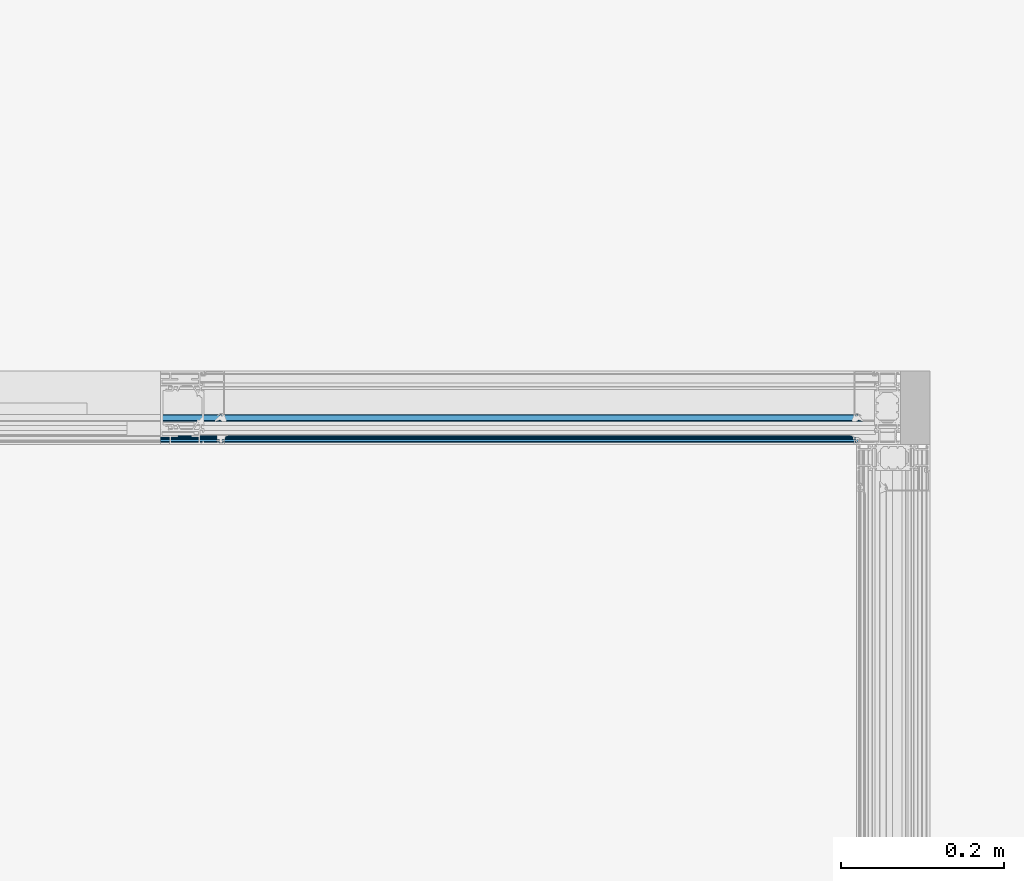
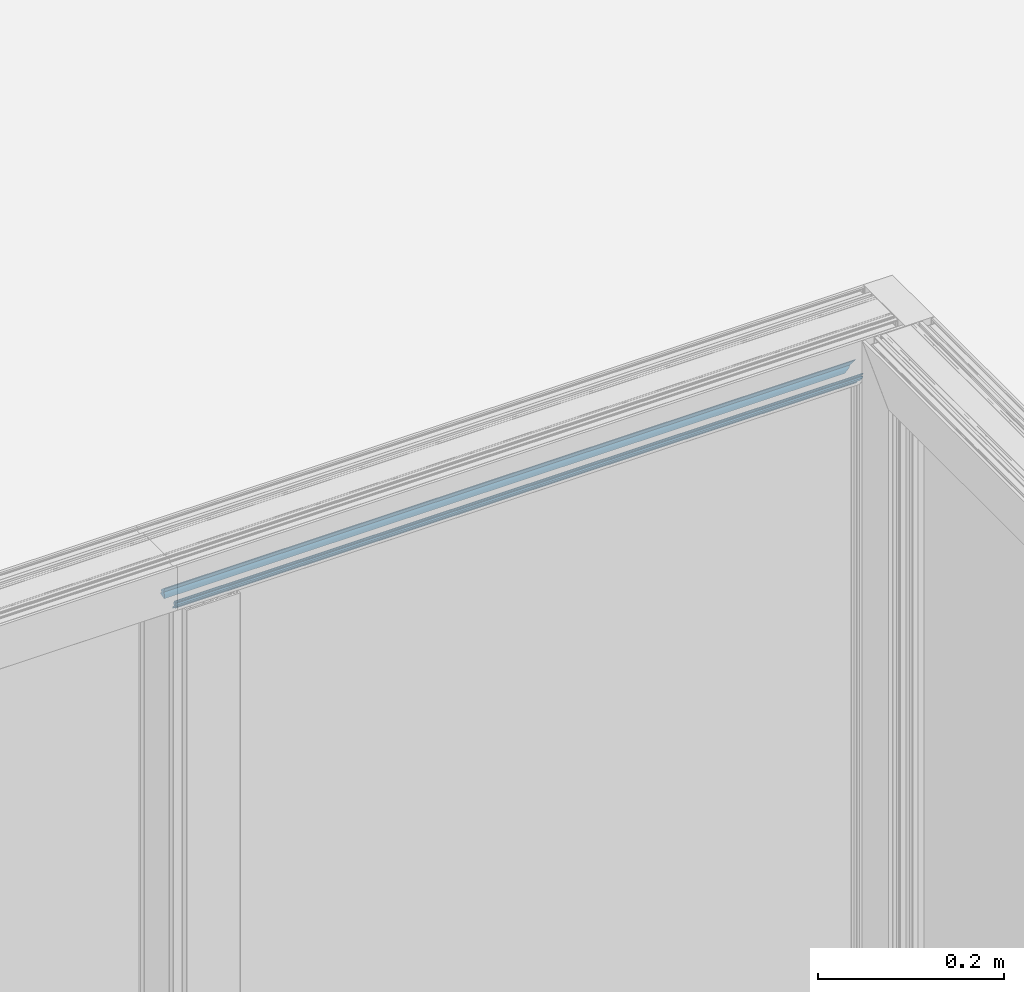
# One storey, part 37 of 69: 1 building element part, 2 elements without a shape of their own.
"""IFC2X3 building model written with IfcOpenShell, lengths in millimetres."""

from ifc_helpers import new_model, entity, si_unit, converted_unit, derived_unit, money_unit, direction, frame, origin_with_axes, place, context, subcontext, project, spatial, faceted_brep, material, type_object, element, aggregate, save


model = new_model("IFC2X3")

# Units and contexts
model_context = context("Model", 3, precision=0.01, world=origin_with_axes(), true_north=direction((0.0, 1.0)))
body_context = subcontext(model_context, "Body", "Model", "MODEL_VIEW")
ifc_project = project(units=[si_unit("LENGTHUNIT", "METRE", prefix="MILLI"), si_unit("AREAUNIT", "SQUARE_METRE"), si_unit("VOLUMEUNIT", "CUBIC_METRE"), converted_unit("PLANEANGLEUNIT", "DEGREE", entity("IfcPlaneAngleMeasure", 0.0174532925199), si_unit("PLANEANGLEUNIT", "RADIAN"), dimensions=[0, 0, 0, 0, 0, 0, 0]), si_unit("SOLIDANGLEUNIT", "STERADIAN"), money_unit("EUR"), converted_unit("TIMEUNIT", "Year", entity("IfcTimeMeasure", 31556926.0), si_unit("TIMEUNIT", "SECOND"), dimensions=[0, 0, 1, 0, 0, 0, 0]), si_unit("MASSUNIT", "GRAM", prefix="KILO"), si_unit("THERMODYNAMICTEMPERATUREUNIT", "DEGREE_CELSIUS"), si_unit("LUMINOUSINTENSITYUNIT", "LUMEN"), si_unit("ENERGYUNIT", "JOULE", prefix="MEGA"), derived_unit("THERMALCONDUCTANCEUNIT", [(si_unit("POWERUNIT", "WATT"), 1), (si_unit("LENGTHUNIT", "METRE"), -1), (si_unit("THERMODYNAMICTEMPERATUREUNIT", "KELVIN"), -1)]), derived_unit("SPECIFICHEATCAPACITYUNIT", [(si_unit("ENERGYUNIT", "JOULE"), 1), (si_unit("MASSUNIT", "GRAM", prefix="KILO"), -1), (si_unit("THERMODYNAMICTEMPERATUREUNIT", "KELVIN"), -1)]), derived_unit("MASSDENSITYUNIT", [(si_unit("MASSUNIT", "GRAM", prefix="KILO"), 1), (si_unit("VOLUMEUNIT", "CUBIC_METRE"), -1)])], contexts=[model_context])

# Site, building, storey
site_placement = place(None, origin_with_axes())
site = spatial("IfcSite", under=ifc_project, at=site_placement, Name="Puškini 31, Narva", CompositionType="ELEMENT")
building_placement = place(site_placement, origin_with_axes())
building = spatial("IfcBuilding", under=site, at=building_placement, Name="Narva Riigigümnaasium", CompositionType="ELEMENT")
storey_placement = place(building_placement, origin_with_axes())
storey = spatial("IfcBuildingStorey", under=building, at=storey_placement, Name="1.korrus 0.00", CompositionType="ELEMENT", Elevation=0.0)

# Curtain wall, member, building element part
curtain_wall_type = type_object("IfcCurtainWallType", Name="Curtain Wall Type", PredefinedType="NOTDEFINED")
curtain_wall_placement = place(storey_placement, frame((18229.9603698, 152620.000001, -0.397158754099), z_axis=(0.0, 0.0, 1.0), x_axis=(1.0, 0.0, 0.0)))
curtain_wall = element("IfcCurtainWall", 1, at=curtain_wall_placement, inside=storey, type_object=curtain_wall_type, Name="G-KLF-01-1")
member_type = type_object("IfcMemberType", Name="61 x 45", PredefinedType="MULLION")
member_placement = place(curtain_wall_placement, frame((4064.40686752, 0.0, 3760.3971197), z_axis=(-1.0, 0.0, 0.0), x_axis=(0.0, 0.0, 1.0)))
member = element("IfcMember", 2, at=member_placement, type_object=member_type, Name="G-SKLF-01-raam", ObjectType="MULLION")
aggregate(curtain_wall, [member])
ifc_material = material(Name="Membraan - Veekindel")
building_element_part_placement = place(member_placement, origin_with_axes())
building_element_part = element("IfcBuildingElementPart", 3, at=building_element_part_placement, material=ifc_material, Name="Membraan - Veekindel", context=body_context, shape_type="Brep", body=[
    faceted_brep([(-59.5800222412, -34.73794757, 59.5800222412), (-59.5800222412, -34.73794757, 905.68356342), (-61.0413385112, -34.3890442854, 905.68356342), (-61.0413385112, -34.3890442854, 61.0413385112), (-58.4755028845, -35.3628499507, 58.4755028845), (-58.4755028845, -35.3628499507, 905.68356342), (-57.9693613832, -36.5265882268, 905.68356342), (-57.7000324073, -39.5999584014, 905.68356342), (-57.6464370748, -39.7999717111, 905.68356342), (-57.5000161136, -39.9463912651, 905.68356342), (-57.3000022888, -39.9999846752, 905.68356342), (-57.3000022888, -39.1999494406, 905.68356342), (-55.3000210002, -39.1999606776, 905.68356342), (-55.2330337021, -38.9499606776, 905.68356342), (-55.0500210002, -38.7669479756, 905.68356342), (-54.8000210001, -38.6999606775, 905.68356342), (-54.5500210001, -38.7669479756, 905.68356342), (-54.3670082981, -38.9499606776, 905.68356342), (-54.300021, -39.1999606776, 905.68356342), (-54.300021, -40.4999366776, 905.68356342), (-54.3402133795, -40.6499366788, 905.68356342), (-54.4500210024, -40.7597443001, 905.68356342), (-54.6000210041, -40.7999366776, 905.68356342), (-54.7000173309, -40.7999366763, 905.68356342), (-54.866675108, -40.850483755, 905.68356342), (-54.9771753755, -40.9850924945, 905.68356342), (-54.9942836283, -41.1584047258, 905.68356342), (-54.9122350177, -41.3120206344, 905.68356342), (-53.8716106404, -42.3533776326, 905.68356342), (-53.7093558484, -42.4618547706, 905.68356342), (-53.517932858, -42.4999486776, 905.68356342), (-51.8818844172, -42.4999486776, 905.68356342), (-51.6904310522, -42.4618421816, 905.68356342), (-51.5281601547, -42.3533311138, 905.68356342), (-50.4878083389, -41.3119729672, 905.68356342), (-50.4057850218, -41.1583618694, 905.68356342), (-50.4229059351, -40.9850671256, 905.68356342), (-50.5334025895, -40.8504763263, 905.68356342), (-50.7000457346, -40.7999366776, 905.68356342), (-50.80004, -40.7999366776, 905.68356342), (-50.95004, -40.7597442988, 905.68356342), (-51.0598476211, -40.6499366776, 905.68356342), (-51.10004, -40.4999366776, 905.68356342), (-51.10004, -39.1999550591, 905.68356342), (-51.0330541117, -38.9499546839, 905.68356342), (-50.8500424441, -38.7669409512, 905.68356342), (-50.6000428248, -38.699952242, 905.68356342), (-50.3500424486, -38.7669381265, 905.68356342), (-50.1670287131, -38.9499497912, 905.68356342), (-50.10004, -39.1999494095, 905.68356342), (-48.7206527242, -39.1999494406, 905.68356342), (-48.7206527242, -38.0023809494, 905.68356342), (-48.7876400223, -37.7523809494, 905.68356342), (-48.9706527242, -37.5693682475, 905.68356342), (-49.2206527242, -37.5023809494, 905.68356342), (-50.3319753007, -37.5023809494, 905.68356342), (-50.5819753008, -37.4353936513, 905.68356342), (-50.7649880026, -37.2523809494, 905.68356342), (-51.1691331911, -36.5523809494, 905.68356342), (-51.352145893, -36.3693682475, 905.68356342), (-51.602145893, -36.3023809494, 905.68356342), (-53.8391557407, -36.3023809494, 905.68356342), (-54.0891557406, -36.3693682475, 905.68356342), (-54.2721684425, -36.5523809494, 905.68356342), (-54.676313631, -37.2523809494, 905.68356342), (-54.8593263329, -37.4353936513, 905.68356342), (-55.1093263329, -37.5023809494, 905.68356342), (-55.7607444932, -37.5023809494, 905.68356342), (-55.9795989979, -37.4519392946, 905.68356342), (-56.1542959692, -37.3107917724, 905.68356342), (-56.2495873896, -37.1074172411, 905.68356342), (-56.9567944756, -35.6067920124, 905.68356342), (-58.2346494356, -34.5489145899, 905.68356342), (-59.8409257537, -34.1343131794, 905.68356342), (-60.7381535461, -33.9217644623, 905.68356342), (-61.0108941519, -33.784859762, 905.68356342), (-61.1423164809, -33.9681748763, 905.68356342), (-61.1536677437, -34.1934467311, 905.68356342), (-53.5000340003, -40.7999553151, 905.68356342), (-53.433048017, -39.44993177, 905.68356342), (-53.2500389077, -39.2669226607, 905.68356342), (-53.0000438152, -39.1999366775, 905.68356342), (-52.4000171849, -39.1999366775, 905.68356342), (-52.1500220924, -39.2669226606, 905.68356342), (-51.9670129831, -39.4499317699, 905.68356342), (-51.9000269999, -39.6999268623, 905.68356342), (-51.9000269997, -40.799955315, 905.68356342), (-51.9670118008, -41.0499459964, 905.68356342), (-52.150017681, -41.2329518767, 905.68356342), (-52.4000083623, -41.299936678, 905.68356342), (-53.0000526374, -41.299936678, 905.68356342), (-53.2500433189, -41.2329518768, 905.68356342), (-53.4330491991, -41.0499459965, 905.68356342), (-61.1536677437, -34.1934467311, 61.1536677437), (-61.1423164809, -33.9681748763, 61.1423164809), (-61.0108941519, -33.784859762, 61.0108941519), (-60.7381535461, -33.9217644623, 60.7381535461), (-59.8409257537, -34.1343131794, 59.8409257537), (-58.2346494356, -34.5489145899, 58.2346494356), (-56.9567944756, -35.6067920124, 56.9567944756), (-56.2495873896, -37.1074172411, 56.2495873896), (-56.1542959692, -37.3107917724, 56.1542959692), (-55.9795989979, -37.4519392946, 55.9795989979), (-55.7607444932, -37.5023809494, 55.7607444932), (-55.1093263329, -37.5023809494, 55.1093263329), (-54.8593263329, -37.4353936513, 54.8593263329), (-54.676313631, -37.2523809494, 54.676313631), (-54.2721684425, -36.5523809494, 54.2721684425), (-54.0891557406, -36.3693682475, 54.0891557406), (-53.8391557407, -36.3023809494, 53.8391557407), (-51.602145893, -36.3023809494, 51.602145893), (-51.352145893, -36.3693682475, 51.352145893), (-51.1691331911, -36.5523809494, 51.1691331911), (-50.7649880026, -37.2523809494, 50.7649880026), (-50.5819753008, -37.4353936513, 50.5819753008), (-50.3319753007, -37.5023809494, 50.3319753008), (-49.2206527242, -37.5023809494, 49.2206527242), (-48.9706527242, -37.5693682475, 48.9706527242), (-48.7876400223, -37.7523809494, 48.7876400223), (-48.7206527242, -38.0023809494, 48.7206527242), (-48.7206527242, -39.1999494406, 48.7206527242), (-50.10004, -39.1999494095, 50.10004), (-50.1670287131, -38.9499497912, 50.1670287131), (-50.3500424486, -38.7669381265, 50.3500424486), (-50.6000428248, -38.699952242, 50.6000428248), (-50.8500424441, -38.7669409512, 50.8500424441), (-51.0330541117, -38.9499546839, 51.0330541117), (-51.10004, -39.1999550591, 51.10004), (-51.10004, -40.4999366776, 51.10004), (-51.0598476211, -40.6499366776, 51.0598476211), (-50.95004, -40.7597442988, 50.95004), (-50.80004, -40.7999366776, 50.80004), (-50.7000457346, -40.7999366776, 50.7000457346), (-50.5334025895, -40.8504763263, 50.5334025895), (-50.4229059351, -40.9850671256, 50.4229059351), (-50.4057850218, -41.1583618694, 50.4057850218), (-50.4878083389, -41.3119729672, 50.4878083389), (-51.5281601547, -42.3533311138, 51.5281601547), (-51.6904310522, -42.4618421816, 51.6904310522), (-51.8818844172, -42.4999486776, 51.8818844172), (-53.517932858, -42.4999486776, 53.517932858), (-53.7093558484, -42.4618547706, 53.7093558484), (-53.8716106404, -42.3533776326, 53.8716106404), (-54.9122350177, -41.3120206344, 54.9122350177), (-54.9942836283, -41.1584047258, 54.9942836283), (-54.9771753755, -40.9850924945, 54.9771753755), (-54.866675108, -40.850483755, 54.866675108), (-54.7000173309, -40.7999366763, 54.7000173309), (-54.6000210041, -40.7999366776, 54.6000210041), (-54.4500210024, -40.7597443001, 54.4500210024), (-54.3402133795, -40.6499366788, 54.3402133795), (-54.300021, -40.4999366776, 54.300021), (-54.300021, -39.1999606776, 54.300021), (-54.3670082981, -38.9499606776, 54.3670082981), (-54.5500210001, -38.7669479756, 54.5500210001), (-54.8000210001, -38.6999606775, 54.8000210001), (-55.0500210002, -38.7669479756, 55.0500210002), (-55.2330337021, -38.9499606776, 55.2330337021), (-55.3000210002, -39.1999606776, 55.3000210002), (-57.3000022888, -39.1999494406, 57.3000022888), (-57.3000022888, -39.9999846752, 57.3000022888), (-57.5000161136, -39.9463912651, 57.5000161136), (-57.6464370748, -39.7999717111, 57.6464370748), (-57.7000324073, -39.5999584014, 57.7000324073), (-57.9693613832, -36.5265882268, 57.9693613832), (-53.5000340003, -40.7999553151, 53.5000340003), (-53.4330491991, -41.0499459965, 53.4330491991), (-53.2500433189, -41.2329518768, 53.2500433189), (-53.0000526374, -41.299936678, 53.0000526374), (-52.4000083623, -41.299936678, 52.4000083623), (-52.150017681, -41.2329518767, 52.150017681), (-51.9670118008, -41.0499459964, 51.9670118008), (-51.9000269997, -40.799955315, 51.9000269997), (-51.9000269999, -39.6999268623, 51.9000269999), (-51.9670129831, -39.4499317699, 51.9670129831), (-52.1500220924, -39.2669226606, 52.1500220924), (-52.4000171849, -39.1999366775, 52.4000171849), (-53.0000438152, -39.1999366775, 53.0000438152), (-53.2500389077, -39.2669226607, 53.2500389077), (-53.433048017, -39.44993177, 53.433048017)], [[[0, 1, 2, 3]], [[4, 5, 1, 0]], [[2, 1, 5, 6, 7, 8, 9, 10, 11, 12, 13, 14, 15, 16, 17, 18, 19, 20, 21, 22, 23, 24, 25, 26, 27, 28, 29, 30, 31, 32, 33, 34, 35, 36, 37, 38, 39, 40, 41, 42, 43, 44, 45, 46, 47, 48, 49, 50, 51, 52, 53, 54, 55, 56, 57, 58, 59, 60, 61, 62, 63, 64, 65, 66, 67, 68, 69, 70, 71, 72, 73, 74, 75, 76, 77], [78, 79, 80, 81, 82, 83, 84, 85, 86, 87, 88, 89, 90, 91, 92]], [[3, 2, 77, 93]], [[3, 93, 94, 95, 96, 97, 98, 99, 100, 101, 102, 103, 104, 105, 106, 107, 108, 109, 110, 111, 112, 113, 114, 115, 116, 117, 118, 119, 120, 121, 122, 123, 124, 125, 126, 127, 128, 129, 130, 131, 132, 133, 134, 135, 136, 137, 138, 139, 140, 141, 142, 143, 144, 145, 146, 147, 148, 149, 150, 151, 152, 153, 154, 155, 156, 157, 158, 159, 160, 161, 162, 163, 164, 4, 0], [165, 166, 167, 168, 169, 170, 171, 172, 173, 174, 175, 176, 177, 178, 179]], [[164, 6, 5, 4]], [[163, 7, 6, 164]], [[162, 8, 7, 163]], [[161, 9, 8, 162]], [[160, 10, 9, 161]], [[159, 11, 10, 160]], [[158, 12, 11, 159]], [[157, 13, 12, 158]], [[156, 14, 13, 157]], [[155, 15, 14, 156]], [[154, 16, 15, 155]], [[153, 17, 16, 154]], [[152, 18, 17, 153]], [[151, 19, 18, 152]], [[150, 20, 19, 151]], [[149, 21, 20, 150]], [[148, 22, 21, 149]], [[147, 23, 22, 148]], [[146, 24, 23, 147]], [[145, 25, 24, 146]], [[144, 26, 25, 145]], [[143, 27, 26, 144]], [[142, 28, 27, 143]], [[141, 29, 28, 142]], [[140, 30, 29, 141]], [[139, 31, 30, 140]], [[138, 32, 31, 139]], [[137, 33, 32, 138]], [[136, 34, 33, 137]], [[135, 35, 34, 136]], [[134, 36, 35, 135]], [[133, 37, 36, 134]], [[132, 38, 37, 133]], [[131, 39, 38, 132]], [[130, 40, 39, 131]], [[129, 41, 40, 130]], [[128, 42, 41, 129]], [[127, 43, 42, 128]], [[126, 44, 43, 127]], [[125, 45, 44, 126]], [[124, 46, 45, 125]], [[123, 47, 46, 124]], [[122, 48, 47, 123]], [[121, 49, 48, 122]], [[120, 50, 49, 121]], [[119, 51, 50, 120]], [[118, 52, 51, 119]], [[117, 53, 52, 118]], [[116, 54, 53, 117]], [[115, 55, 54, 116]], [[114, 56, 55, 115]], [[113, 57, 56, 114]], [[112, 58, 57, 113]], [[111, 59, 58, 112]], [[110, 60, 59, 111]], [[109, 61, 60, 110]], [[108, 62, 61, 109]], [[107, 63, 62, 108]], [[106, 64, 63, 107]], [[105, 65, 64, 106]], [[104, 66, 65, 105]], [[103, 67, 66, 104]], [[102, 68, 67, 103]], [[101, 69, 68, 102]], [[100, 70, 69, 101]], [[99, 71, 70, 100]], [[98, 72, 71, 99]], [[97, 73, 72, 98]], [[96, 74, 73, 97]], [[95, 75, 74, 96]], [[94, 76, 75, 95]], [[93, 77, 76, 94]], [[179, 79, 78, 165]], [[178, 80, 79, 179]], [[177, 81, 80, 178]], [[176, 82, 81, 177]], [[175, 83, 82, 176]], [[174, 84, 83, 175]], [[173, 85, 84, 174]], [[172, 86, 85, 173]], [[171, 87, 86, 172]], [[170, 88, 87, 171]], [[169, 89, 88, 170]], [[168, 90, 89, 169]], [[167, 91, 90, 168]], [[166, 92, 91, 167]], [[165, 78, 92, 166]]]),
    faceted_brep([(-55.9926715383, -16.8063498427, 55.9926715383), (-55.9926715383, -16.8063498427, 905.68356342), (-59.0307115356, -16.554149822, 905.68356342), (-59.0307115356, -16.554149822, 59.0307115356), (-53.7899070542, -16.6230039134, 53.7899070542), (-53.7899070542, -16.6230039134, 905.68356342), (-53.1225200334, -16.3483062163, 905.68356342), (-51.5205025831, -15.0099586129, 905.68356342), (-51.3011765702, -14.8998814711, 905.68356342), (-51.0558924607, -14.9074036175, 905.68356342), (-50.8437237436, -15.0307134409, 905.68356342), (-50.5536994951, -15.2121179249, 905.68356342), (-46.298307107, -16.7340705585, 905.68356342), (-45.950966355, -16.7718696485, 905.68356342), (-45.6241929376, -16.6482027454, 905.68356342), (-45.3889077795, -16.3899097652, 905.68356342), (-45.3195226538, -16.2152275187, 905.68356342), (-45.3418968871, -15.7688623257, 905.68356342), (-45.6142070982, -15.4144760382, 905.68356342), (-51.8169217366, -8.74599822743, 905.68356342), (-51.938943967, -8.6326446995, 905.68356342), (-52.1026310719, -8.60190419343, 905.68356342), (-52.2574645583, -8.66326410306, 905.68356342), (-52.3556584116, -8.79778701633, 905.68356342), (-52.7761212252, -9.95299910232, 905.68356342), (-52.8859560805, -10.0961386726, 905.68356342), (-53.0580290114, -10.1503930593, 905.68356342), (-55.1123574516, -10.1503930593, 905.68356342), (-55.2731258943, -10.1036784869, 905.68356342), (-55.3838261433, -9.97808311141, 905.68356342), (-55.4099827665, -9.81272116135, 905.68356342), (-55.2940485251, -8.85237785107, 905.68356342), (-55.3307332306, -8.7275382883, 905.68356342), (-55.4168250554, -8.6299735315, 905.68356342), (-55.5361285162, -8.57803733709, 905.68356342), (-56.9361285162, -8.30590490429, 905.68356342), (-57.0661058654, -8.3093438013, 905.68356342), (-57.1824204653, -8.36745448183, 905.68356342), (-57.2632233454, -8.46932121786, 905.68356342), (-57.5418652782, -10.0035930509, 905.68356342), (-59.3405112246, -15.0012955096, 905.68356342), (-59.5001582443, -15.5494067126, 905.68356342), (-59.3884652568, -16.1092618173, 905.68356342), (-59.3884652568, -16.1092618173, 59.3884652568), (-59.5001582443, -15.5494067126, 59.5001582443), (-59.3405112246, -15.0012955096, 59.3405112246), (-57.5418652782, -10.0035930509, 57.5418652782), (-57.2632233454, -8.46932121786, 57.2632233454), (-57.1824204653, -8.36745448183, 57.1824204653), (-57.0661058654, -8.3093438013, 57.0661058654), (-56.9361285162, -8.30590490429, 56.9361285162), (-55.5361285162, -8.57803733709, 55.5361285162), (-55.4168250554, -8.6299735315, 55.4168250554), (-55.3307332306, -8.7275382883, 55.3307332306), (-55.2940485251, -8.85237785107, 55.2940485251), (-55.4099827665, -9.81272116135, 55.4099827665), (-55.3838261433, -9.97808311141, 55.3838261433), (-55.2731258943, -10.1036784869, 55.2731258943), (-55.1123574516, -10.1503930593, 55.1123574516), (-53.0580290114, -10.1503930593, 53.0580290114), (-52.8859560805, -10.0961386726, 52.8859560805), (-52.7761212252, -9.95299910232, 52.7761212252), (-52.3556584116, -8.79778701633, 52.3556584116), (-52.2574645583, -8.66326410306, 52.2574645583), (-52.1026310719, -8.60190419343, 52.1026310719), (-51.938943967, -8.6326446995, 51.938943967), (-51.8169217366, -8.74599822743, 51.8169217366), (-45.6142070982, -15.4144760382, 45.6142070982), (-45.3418968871, -15.7688623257, 45.3418968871), (-45.3195226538, -16.2152275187, 45.3195226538), (-45.3889077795, -16.3899097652, 45.3889077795), (-45.6241929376, -16.6482027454, 45.6241929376), (-45.950966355, -16.7718696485, 45.950966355), (-46.298307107, -16.7340705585, 46.298307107), (-50.5536994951, -15.2121179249, 50.5536994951), (-50.8437237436, -15.0307134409, 50.8437237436), (-51.0558924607, -14.9074036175, 51.0558924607), (-51.3011765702, -14.8998814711, 51.3011765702), (-51.5205025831, -15.0099586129, 51.5205025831), (-53.1225200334, -16.3483062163, 53.1225200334)], [[[0, 1, 2, 3]], [[4, 5, 1, 0]], [[2, 1, 5, 6, 7, 8, 9, 10, 11, 12, 13, 14, 15, 16, 17, 18, 19, 20, 21, 22, 23, 24, 25, 26, 27, 28, 29, 30, 31, 32, 33, 34, 35, 36, 37, 38, 39, 40, 41, 42]], [[3, 2, 42, 43]], [[3, 43, 44, 45, 46, 47, 48, 49, 50, 51, 52, 53, 54, 55, 56, 57, 58, 59, 60, 61, 62, 63, 64, 65, 66, 67, 68, 69, 70, 71, 72, 73, 74, 75, 76, 77, 78, 79, 4, 0]], [[79, 6, 5, 4]], [[78, 7, 6, 79]], [[77, 8, 7, 78]], [[76, 9, 8, 77]], [[75, 10, 9, 76]], [[74, 11, 10, 75]], [[73, 12, 11, 74]], [[72, 13, 12, 73]], [[71, 14, 13, 72]], [[70, 15, 14, 71]], [[69, 16, 15, 70]], [[68, 17, 16, 69]], [[67, 18, 17, 68]], [[66, 19, 18, 67]], [[65, 20, 19, 66]], [[64, 21, 20, 65]], [[63, 22, 21, 64]], [[62, 23, 22, 63]], [[61, 24, 23, 62]], [[60, 25, 24, 61]], [[59, 26, 25, 60]], [[58, 27, 26, 59]], [[57, 28, 27, 58]], [[56, 29, 28, 57]], [[55, 30, 29, 56]], [[54, 31, 30, 55]], [[53, 32, 31, 54]], [[52, 33, 32, 53]], [[51, 34, 33, 52]], [[50, 35, 34, 51]], [[49, 36, 35, 50]], [[48, 37, 36, 49]], [[47, 38, 37, 48]], [[46, 39, 38, 47]], [[45, 40, 39, 46]], [[44, 41, 40, 45]], [[43, 42, 41, 44]]]),
])
aggregate(member, [building_element_part])

save(model, "model.ifc")
